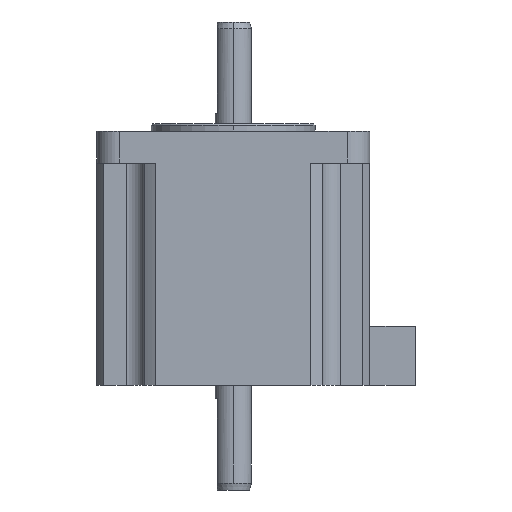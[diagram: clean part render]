
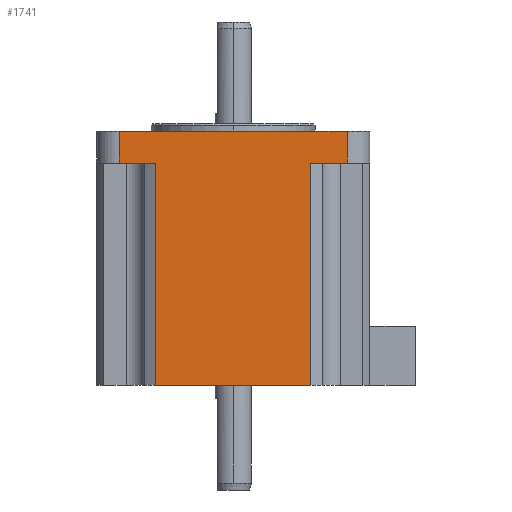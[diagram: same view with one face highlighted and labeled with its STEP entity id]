
A CAD part, left-side view. The second image highlights one B-rep face of the part: STEP entity #1741.
In plain terms, the highlighted planar face has unit normal (-1, 0, 0).
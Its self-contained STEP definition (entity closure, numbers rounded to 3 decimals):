
#5 = VECTOR ( 'NONE', #1420, 1000. ) ;
#54 = CARTESIAN_POINT ( 'NONE',  ( -30., -17.037, -57.4 ) ) ;
#88 = EDGE_LOOP ( 'NONE', ( #124, #2056, #1490, #1404, #1711, #1796, #1758, #2360 ) ) ;
#114 = DIRECTION ( 'NONE',  ( 0., 1., 0. ) ) ;
#124 = ORIENTED_EDGE ( 'NONE', *, *, #160, .F. ) ;
#139 = EDGE_CURVE ( 'NONE', #327, #1502, #1737, .T. ) ;
#148 = VERTEX_POINT ( 'NONE', #678 ) ;
#160 = EDGE_CURVE ( 'NONE', #148, #1038, #621, .T. ) ;
#195 = LINE ( 'NONE', #2389, #1005 ) ;
#237 = EDGE_CURVE ( 'NONE', #148, #1182, #195, .T. ) ;
#316 = LINE ( 'NONE', #54, #2381 ) ;
#327 = VERTEX_POINT ( 'NONE', #2283 ) ;
#376 = CARTESIAN_POINT ( 'NONE',  ( -30., 30., -8.6 ) ) ;
#380 = VERTEX_POINT ( 'NONE', #1797 ) ;
#620 = DIRECTION ( 'NONE',  ( 0., 1., 0. ) ) ;
#621 = LINE ( 'NONE', #376, #2349 ) ;
#678 = CARTESIAN_POINT ( 'NONE',  ( -30., -25., -8.6 ) ) ;
#881 = DIRECTION ( 'NONE',  ( 1., 0., 0. ) ) ;
#912 = AXIS2_PLACEMENT_3D ( 'NONE', #1136, #881, #620 ) ;
#928 = CARTESIAN_POINT ( 'NONE',  ( -30., 25., -8.6 ) ) ;
#1004 = DIRECTION ( 'NONE',  ( 0., 1., 0. ) ) ;
#1005 = VECTOR ( 'NONE', #2143, 1000. ) ;
#1006 = LINE ( 'NONE', #2282, #2035 ) ;
#1024 = FACE_OUTER_BOUND ( 'NONE', #88, .T. ) ;
#1038 = VERTEX_POINT ( 'NONE', #1411 ) ;
#1136 = CARTESIAN_POINT ( 'NONE',  ( -30., 30., -8.6 ) ) ;
#1182 = VERTEX_POINT ( 'NONE', #2374 ) ;
#1243 = DIRECTION ( 'NONE',  ( 0., 0., -1. ) ) ;
#1253 = CARTESIAN_POINT ( 'NONE',  ( -30., 30., -8.6 ) ) ;
#1255 = EDGE_CURVE ( 'NONE', #2277, #1038, #316, .T. ) ;
#1383 = PLANE ( 'NONE',  #912 ) ;
#1404 = ORIENTED_EDGE ( 'NONE', *, *, #139, .T. ) ;
#1407 = CARTESIAN_POINT ( 'NONE',  ( -30., -17.037, -57.4 ) ) ;
#1411 = CARTESIAN_POINT ( 'NONE',  ( -30., -17.037, -8.6 ) ) ;
#1420 = DIRECTION ( 'NONE',  ( 0., 1., 0. ) ) ;
#1489 = EDGE_CURVE ( 'NONE', #1182, #327, #1915, .T. ) ;
#1490 = ORIENTED_EDGE ( 'NONE', *, *, #1489, .T. ) ;
#1497 = CARTESIAN_POINT ( 'NONE',  ( -30., 25., -8.6 ) ) ;
#1502 = VERTEX_POINT ( 'NONE', #928 ) ;
#1506 = LINE ( 'NONE', #1253, #2084 ) ;
#1533 = VECTOR ( 'NONE', #1243, 1000. ) ;
#1659 = DIRECTION ( 'NONE',  ( 0., 1., 0. ) ) ;
#1662 = CARTESIAN_POINT ( 'NONE',  ( -30., 30., -1.6 ) ) ;
#1711 = ORIENTED_EDGE ( 'NONE', *, *, #2008, .F. ) ;
#1737 = LINE ( 'NONE', #1497, #1533 ) ;
#1741 = ADVANCED_FACE ( 'NONE', ( #1024 ), #1383, .F. ) ;
#1758 = ORIENTED_EDGE ( 'NONE', *, *, #2395, .F. ) ;
#1796 = ORIENTED_EDGE ( 'NONE', *, *, #1804, .F. ) ;
#1797 = CARTESIAN_POINT ( 'NONE',  ( -30., 17.037, -8.6 ) ) ;
#1804 = EDGE_CURVE ( 'NONE', #2125, #380, #1006, .T. ) ;
#1911 = CARTESIAN_POINT ( 'NONE',  ( -30., 0., -57.4 ) ) ;
#1915 = LINE ( 'NONE', #1662, #5 ) ;
#1954 = VECTOR ( 'NONE', #1659, 1000. ) ;
#2008 = EDGE_CURVE ( 'NONE', #380, #1502, #1506, .T. ) ;
#2022 = CARTESIAN_POINT ( 'NONE',  ( -30., 17.037, -57.4 ) ) ;
#2034 = DIRECTION ( 'NONE',  ( 0., 0., 1. ) ) ;
#2035 = VECTOR ( 'NONE', #2034, 1000. ) ;
#2056 = ORIENTED_EDGE ( 'NONE', *, *, #237, .T. ) ;
#2084 = VECTOR ( 'NONE', #1004, 1000. ) ;
#2125 = VERTEX_POINT ( 'NONE', #2022 ) ;
#2143 = DIRECTION ( 'NONE',  ( 0., 0., 1. ) ) ;
#2166 = LINE ( 'NONE', #1911, #1954 ) ;
#2259 = DIRECTION ( 'NONE',  ( 0., 0., 1. ) ) ;
#2277 = VERTEX_POINT ( 'NONE', #1407 ) ;
#2282 = CARTESIAN_POINT ( 'NONE',  ( -30., 17.037, -57.4 ) ) ;
#2283 = CARTESIAN_POINT ( 'NONE',  ( -30., 25., -1.6 ) ) ;
#2349 = VECTOR ( 'NONE', #114, 1000. ) ;
#2360 = ORIENTED_EDGE ( 'NONE', *, *, #1255, .T. ) ;
#2374 = CARTESIAN_POINT ( 'NONE',  ( -30., -25., -1.6 ) ) ;
#2381 = VECTOR ( 'NONE', #2259, 1000. ) ;
#2389 = CARTESIAN_POINT ( 'NONE',  ( -30., -25., -8.6 ) ) ;
#2395 = EDGE_CURVE ( 'NONE', #2277, #2125, #2166, .T. ) ;
